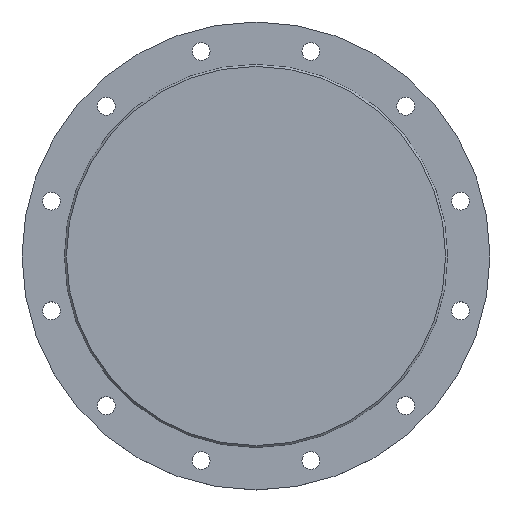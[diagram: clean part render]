
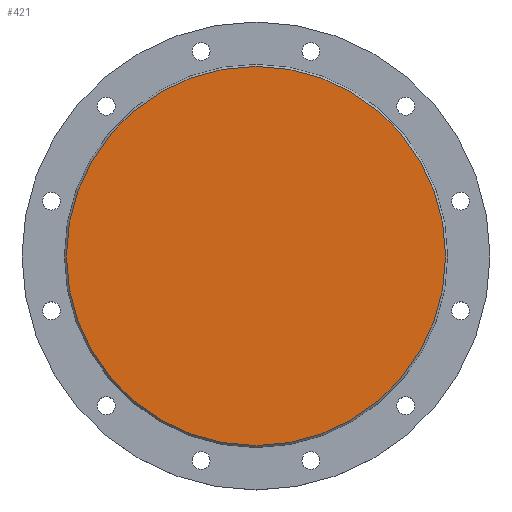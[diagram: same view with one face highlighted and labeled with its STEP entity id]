
A CAD part, top view. The second image highlights one B-rep face of the part: STEP entity #421.
In plain terms, the highlighted planar face has unit normal (0, 0, 1).
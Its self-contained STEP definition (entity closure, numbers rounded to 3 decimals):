
#42=PLANE('',#502);
#59=FACE_OUTER_BOUND('',#89,.T.);
#89=EDGE_LOOP('',(#365,#366));
#171=CIRCLE('',#497,286.);
#172=CIRCLE('',#498,286.);
#215=VERTEX_POINT('',#749);
#216=VERTEX_POINT('',#750);
#271=EDGE_CURVE('',#215,#216,#171,.T.);
#272=EDGE_CURVE('',#216,#215,#172,.T.);
#365=ORIENTED_EDGE('',*,*,#271,.T.);
#366=ORIENTED_EDGE('',*,*,#272,.T.);
#421=ADVANCED_FACE('',(#59),#42,.T.);
#497=AXIS2_PLACEMENT_3D('',#751,#626,#627);
#498=AXIS2_PLACEMENT_3D('',#752,#628,#629);
#502=AXIS2_PLACEMENT_3D('',#760,#638,#639);
#626=DIRECTION('center_axis',(0.,0.,1.));
#627=DIRECTION('ref_axis',(1.,0.,0.));
#628=DIRECTION('center_axis',(0.,0.,1.));
#629=DIRECTION('ref_axis',(1.,0.,0.));
#638=DIRECTION('center_axis',(0.,0.,1.));
#639=DIRECTION('ref_axis',(1.,0.,0.));
#749=CARTESIAN_POINT('',(286.,0.,0.));
#750=CARTESIAN_POINT('',(-286.,0.,0.));
#751=CARTESIAN_POINT('Origin',(0.,0.,0.));
#752=CARTESIAN_POINT('Origin',(0.,0.,0.));
#760=CARTESIAN_POINT('Origin',(0.,0.,0.));
